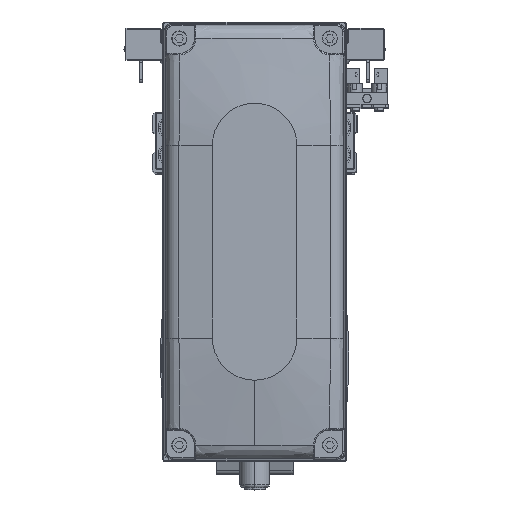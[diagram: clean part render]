
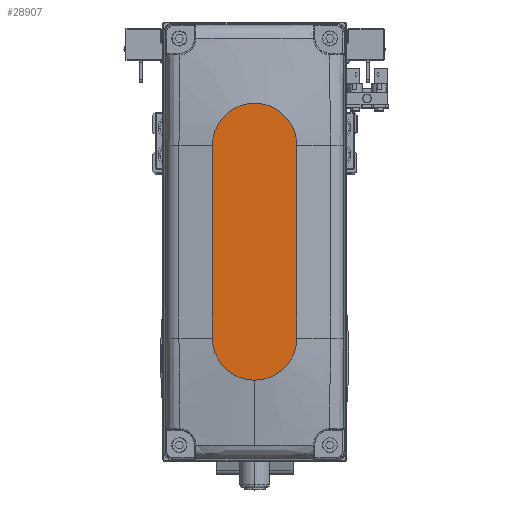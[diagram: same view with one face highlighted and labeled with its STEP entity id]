
A CAD part, top view. The second image highlights one B-rep face of the part: STEP entity #28907.
In plain terms, the highlighted planar face has unit normal (0, 0, 1).
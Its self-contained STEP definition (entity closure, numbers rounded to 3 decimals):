
#103 = CARTESIAN_POINT ( 'NONE',  ( 32., 14., 35. ) ) ;
#514 = DIRECTION ( 'NONE',  ( 1., 0., 0. ) ) ;
#1322 = DIRECTION ( 'NONE',  ( 0., 0., 1. ) ) ;
#2927 = AXIS2_PLACEMENT_3D ( 'NONE', #43434, #13031, #26560 ) ;
#3857 = PLANE ( 'NONE',  #23353 ) ;
#4395 = ORIENTED_EDGE ( 'NONE', *, *, #19242, .T. ) ;
#5408 = CARTESIAN_POINT ( 'NONE',  ( 32., -14., 35. ) ) ;
#5867 = CARTESIAN_POINT ( 'NONE',  ( -32., 14., 35. ) ) ;
#6127 = EDGE_CURVE ( 'NONE', #17926, #28555, #37490, .T. ) ;
#6510 = CARTESIAN_POINT ( 'NONE',  ( 32., 0., 35. ) ) ;
#6938 = CIRCLE ( 'NONE', #31724, 14. ) ;
#8060 = EDGE_CURVE ( 'NONE', #35910, #24112, #22049, .T. ) ;
#11783 = VECTOR ( 'NONE', #19392, 1000. ) ;
#13031 = DIRECTION ( 'NONE',  ( 0., 0., 1. ) ) ;
#14364 = LINE ( 'NONE', #27896, #18410 ) ;
#14871 = DIRECTION ( 'NONE',  ( 1., 0., 0. ) ) ;
#17387 = CARTESIAN_POINT ( 'NONE',  ( 0., 0., 35. ) ) ;
#17926 = VERTEX_POINT ( 'NONE', #5408 ) ;
#18388 = AXIS2_PLACEMENT_3D ( 'NONE', #31720, #1322, #14871 ) ;
#18410 = VECTOR ( 'NONE', #41420, 1000. ) ;
#19242 = EDGE_CURVE ( 'NONE', #28555, #32587, #6938, .T. ) ;
#19392 = DIRECTION ( 'NONE',  ( -1., 0., 0. ) ) ;
#20041 = DIRECTION ( 'NONE',  ( 0., 0., 1. ) ) ;
#22049 = CIRCLE ( 'NONE', #2927, 14. ) ;
#23353 = AXIS2_PLACEMENT_3D ( 'NONE', #17387, #30905, #514 ) ;
#24112 = VERTEX_POINT ( 'NONE', #29244 ) ;
#26560 = DIRECTION ( 'NONE',  ( 1., 0., 0. ) ) ;
#26996 = ORIENTED_EDGE ( 'NONE', *, *, #6127, .T. ) ;
#27285 = EDGE_LOOP ( 'NONE', ( #43592, #37898, #39316, #26996, #4395 ) ) ;
#27896 = CARTESIAN_POINT ( 'NONE',  ( -32., -14., 35. ) ) ;
#28306 = CARTESIAN_POINT ( 'NONE',  ( 46., 0., 35. ) ) ;
#28555 = VERTEX_POINT ( 'NONE', #28306 ) ;
#28907 = ADVANCED_FACE ( 'NONE', ( #34241 ), #3857, .T. ) ;
#29244 = CARTESIAN_POINT ( 'NONE',  ( -32., -14., 35. ) ) ;
#30905 = DIRECTION ( 'NONE',  ( 0., 0., 1. ) ) ;
#31720 = CARTESIAN_POINT ( 'NONE',  ( 32., 0., 35. ) ) ;
#31724 = AXIS2_PLACEMENT_3D ( 'NONE', #6510, #20041, #33551 ) ;
#32587 = VERTEX_POINT ( 'NONE', #103 ) ;
#33339 = CARTESIAN_POINT ( 'NONE',  ( -32., 14., 35. ) ) ;
#33551 = DIRECTION ( 'NONE',  ( 1., 0., 0. ) ) ;
#33766 = EDGE_CURVE ( 'NONE', #32587, #35910, #36255, .T. ) ;
#34241 = FACE_OUTER_BOUND ( 'NONE', #27285, .T. ) ;
#35910 = VERTEX_POINT ( 'NONE', #33339 ) ;
#36255 = LINE ( 'NONE', #5867, #11783 ) ;
#37490 = CIRCLE ( 'NONE', #18388, 14. ) ;
#37898 = ORIENTED_EDGE ( 'NONE', *, *, #8060, .T. ) ;
#38227 = EDGE_CURVE ( 'NONE', #24112, #17926, #14364, .T. ) ;
#39316 = ORIENTED_EDGE ( 'NONE', *, *, #38227, .T. ) ;
#41420 = DIRECTION ( 'NONE',  ( 1., 0., 0. ) ) ;
#43434 = CARTESIAN_POINT ( 'NONE',  ( -32., 0., 35. ) ) ;
#43592 = ORIENTED_EDGE ( 'NONE', *, *, #33766, .T. ) ;
